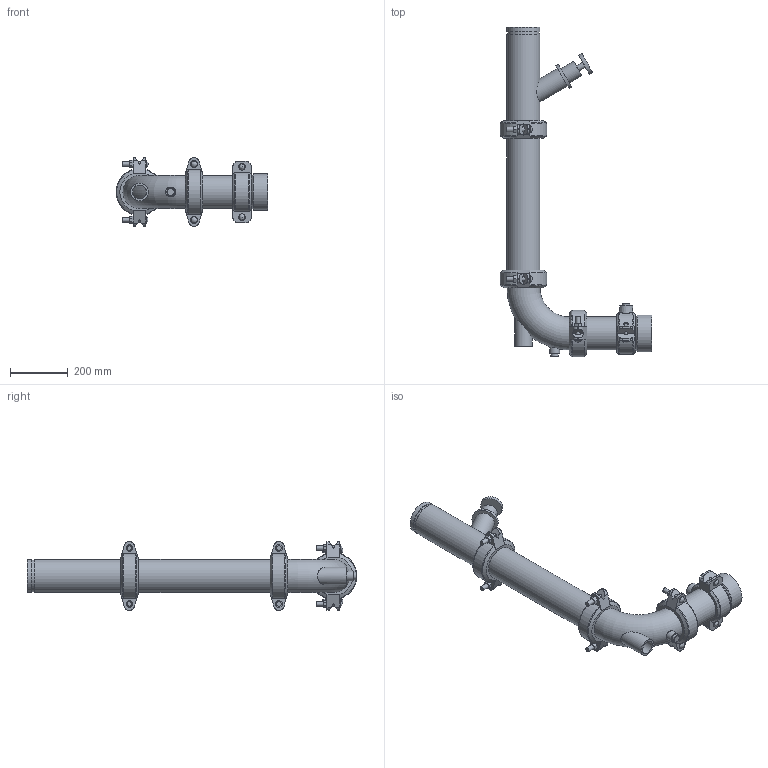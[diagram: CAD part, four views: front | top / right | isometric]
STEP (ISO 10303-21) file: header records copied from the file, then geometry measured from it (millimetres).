
FILE_DESCRIPTION(/* description */ ('VIC RVI SINGLE COIL AHU DROP LOW PROFILE SERIES 385I (OGSxFPT)','CAx-IF Rec.Pracs.---Representation and Presentation of Product Manufacturing Information (PMI)---4.0---2014-10-13'),/* implementation_level */ '2;1');
FILE_NAME(/* name */ 'C:\Users\kkamble\AppData\Roaming\Autodesk\ApplicationPlugins\Victaulic.Temp\A812\Victaulic_IPS_RVI_Single Coil_Low Profile_Series 385I (OGSxFPT)_04.0x04.0 (100x100).stp',/* time_stamp */ '2021-03-17T13:02:34+06:00',/* author */ ('Vjadhav'),/* organization */ ('Victaulic'),/* preprocessor_version */ 'ST-DEVELOPER v17.2',/* originating_system */ 'Autodesk Inventor 2019',/* authorisation */ '');
FILE_SCHEMA (('AP242_MANAGED_MODEL_BASED_3D_ENGINEERING_MIM_LF { 1 0 10303 442 1 1 4 }'));
Length unit declared in the file: inch
Products named in the file (8): 385I-04.0x04.0; 080-04.0; 072-04.0x0.75; Pipe-04.0; 100G_1_-04.0; Pipe_2_(1'-2 3/4")-04.0; 177N-04.0; 789-04.0
Assembly tree (9 placements, depth 2):
  385I-04.0x04.0
    080-04.0
    072-04.0x0.75
    Pipe-04.0
    177N-04.0  x3
    100G_1_-04.0
    Pipe_2_(1'-2 3/4")-04.0
    789-04.0
Bounding box: 525.23 x 1141.48 x 237.12 mm (x, y, z)
Volume: 6389382.8 mm3; surface area: 1449699.3 mm2
Topology: 9 solids, 9 shells, 456 faces, 1236 edges, 830 vertices
Faces by surface type: plane 256, cylinder 146, torus 24, cone 18, bspline 6, sphere 6
Full cylindrical faces by diameter (mm): 10.16 x4, 14.605 x2, 15.875 x6, 19.05 x1, 20.93 x2, 22.86 x2, 23.495 x6, 26.67 x3, 34.29 x1, 48.26 x1, 57.15 x1, 60.96 x1, 69.85 x1, 76.2 x1, 92.05 x1, 101.6 x3, 102.26 x6, 110.084 x9, 114.3 x21, 127 x1
Entity records: 10116 total; most frequent: CARTESIAN_POINT 2199, DIRECTION 1622, ORIENTED_EDGE 1494, EDGE_CURVE 747, AXIS2_PLACEMENT_3D 644, VERTEX_POINT 508, EDGE_LOOP 337, LINE 334
